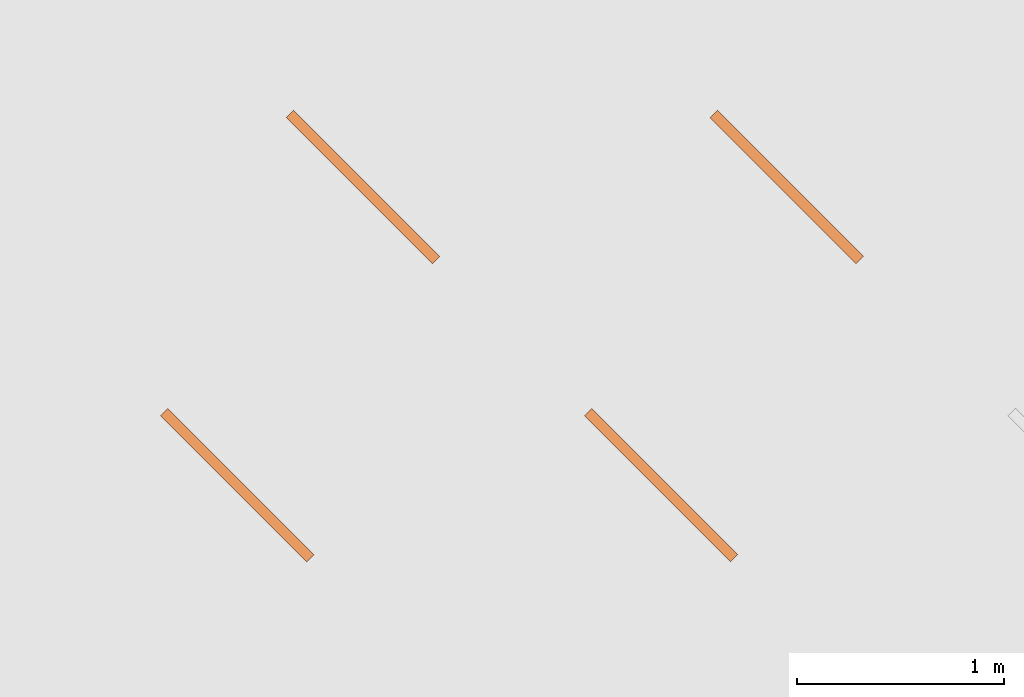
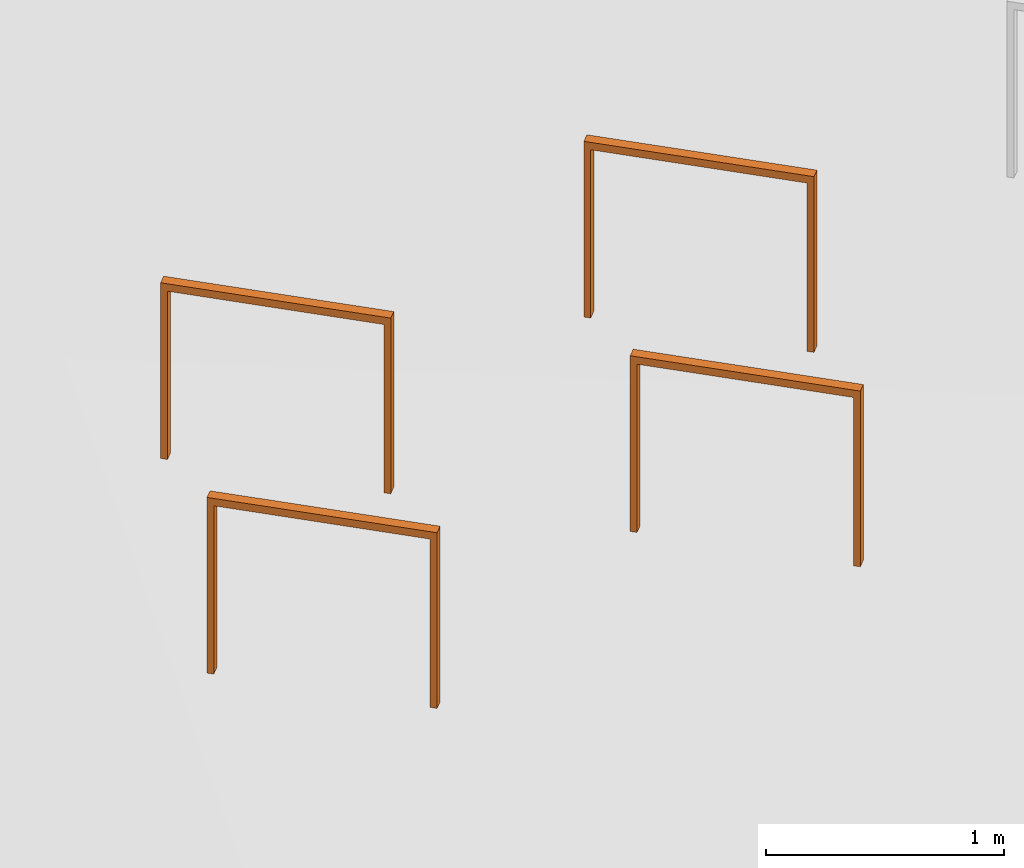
# One storey, part 226 of 246: 4 proxies.
"""IFC2X3 building model written with IfcOpenShell, lengths in millimetres."""

from ifc_helpers import new_model, entity, si_unit, converted_unit, derived_unit, money_unit, direction, frame, origin_with_axes, place, context, subcontext, project, spatial, faceted_brep, material, type_object, element, save


model = new_model("IFC2X3")

# Units and contexts
model_context = context("Model", 3, precision=0.01, world=origin_with_axes(), true_north=direction((0.0, 1.0)))
body_context = subcontext(model_context, "Body", "Model", "MODEL_VIEW")
ifc_project = project(units=[si_unit("LENGTHUNIT", "METRE", prefix="MILLI"), si_unit("AREAUNIT", "SQUARE_METRE"), si_unit("VOLUMEUNIT", "CUBIC_METRE"), converted_unit("PLANEANGLEUNIT", "DEGREE", entity("IfcPlaneAngleMeasure", 0.0174532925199), si_unit("PLANEANGLEUNIT", "RADIAN"), dimensions=[0, 0, 0, 0, 0, 0, 0]), si_unit("SOLIDANGLEUNIT", "STERADIAN"), money_unit("EUR"), converted_unit("TIMEUNIT", "Year", entity("IfcTimeMeasure", 31556926.0), si_unit("TIMEUNIT", "SECOND"), dimensions=[0, 0, 1, 0, 0, 0, 0]), si_unit("MASSUNIT", "GRAM", prefix="KILO"), si_unit("THERMODYNAMICTEMPERATUREUNIT", "DEGREE_CELSIUS"), si_unit("LUMINOUSINTENSITYUNIT", "LUMEN"), si_unit("ENERGYUNIT", "JOULE", prefix="MEGA"), derived_unit("THERMALCONDUCTANCEUNIT", [(si_unit("POWERUNIT", "WATT"), 1), (si_unit("LENGTHUNIT", "METRE"), -1), (si_unit("THERMODYNAMICTEMPERATUREUNIT", "KELVIN"), -1)]), derived_unit("SPECIFICHEATCAPACITYUNIT", [(si_unit("ENERGYUNIT", "JOULE"), 1), (si_unit("MASSUNIT", "GRAM", prefix="KILO"), -1), (si_unit("THERMODYNAMICTEMPERATUREUNIT", "KELVIN"), -1)]), derived_unit("MASSDENSITYUNIT", [(si_unit("MASSUNIT", "GRAM", prefix="KILO"), 1), (si_unit("VOLUMEUNIT", "CUBIC_METRE"), -1)])], contexts=[model_context])

# Site, building, storey
site_placement = place(None, origin_with_axes())
site = spatial("IfcSite", under=ifc_project, at=site_placement, Name="L.Koidula tn 11b", CompositionType="ELEMENT")
building_placement = place(site_placement, origin_with_axes())
building = spatial("IfcBuilding", under=site, at=building_placement, Name="Rakvere Riigigümnaasium", CompositionType="ELEMENT")
storey_placement = place(building_placement, origin_with_axes())
storey = spatial("IfcBuildingStorey", under=building, at=storey_placement, Name="1.korrus 0,00", CompositionType="ELEMENT", Elevation=0.0)

# Proxies
ifc_material = material(Name="teras_must")
building_element_proxy_type = type_object("IfcBuildingElementProxyType", Name="Rattahoidja 1000 x 900", PredefinedType="NOTDEFINED")
for number, where, z_axis, x_axis, name in (
    (1, (26821.4002589, 84962.1941633, 100.0), (0.0, 0.0, 1.0), (-0.707106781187, -0.707106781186, 0.0), "Ratas-01"),
    (2, (26213.2527137, 83519.732043, 89.3421573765), (0.0, 0.0, 1.0), (-0.707106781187, -0.707106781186, 0.0), "Ratas-01"),
    (3, (24162.6430483, 83519.732043, 81.6327708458), (0.0, 0.0, 1.0), (-0.707106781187, -0.707106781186, 0.0), "Ratas-02"),
    (4, (24770.7905935, 84962.1941633, 93.3787126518), (0.0, 0.0, 1.0), (-0.707106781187, -0.707106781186, 0.0), "Ratas-01"),
):
    element("IfcBuildingElementProxy", number, at=place(storey_placement, frame(where, z_axis=z_axis, x_axis=x_axis)), inside=storey, type_object=building_element_proxy_type, material=ifc_material, Name=name, context=body_context, shape_type="Brep", body=[
        faceted_brep([(0.0, 0.0, 0.0), (50.0, 0.0, 0.0), (50.0, -30.0, 0.0), (0.0, -30.0, 0.0), (0.0, 0.0, 900.0), (50.0, 0.0, 900.0), (50.0, -1000.0, 900.0), (50.0, -1000.0, 0.0), (50.0, -970.0, 0.0), (50.0, -970.0, 862.0), (50.0, -30.0, 862.0), (0.0, -30.0, 862.0), (0.0, -970.0, 862.0), (0.0, -970.0, 0.0), (0.0, -1000.0, 0.0), (0.0, -1000.0, 900.0)], [[[0, 1, 2, 3]], [[4, 5, 1, 0]], [[2, 1, 5, 6, 7, 8, 9, 10]], [[3, 2, 10, 11]], [[4, 0, 3, 11, 12, 13, 14, 15]], [[15, 6, 5, 4]], [[14, 7, 6, 15]], [[13, 8, 7, 14]], [[12, 9, 8, 13]], [[11, 10, 9, 12]]]),
    ])

save(model, "model.ifc")
